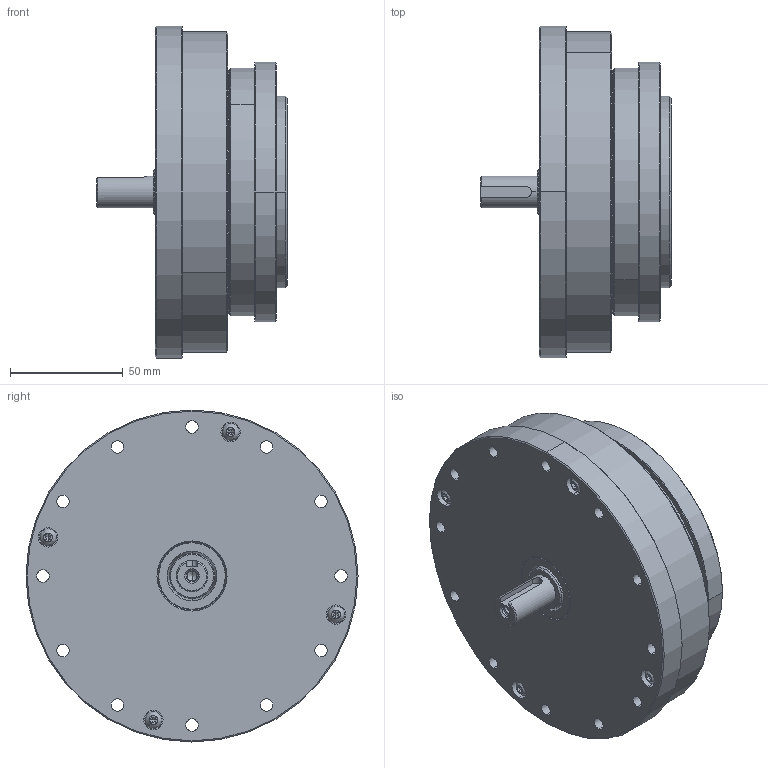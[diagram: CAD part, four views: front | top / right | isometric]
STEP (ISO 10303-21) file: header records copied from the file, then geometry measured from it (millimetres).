
FILE_DESCRIPTION (( 'STEP AP203' ), '1' );
FILE_NAME ('LHSG-32-XXX-C-IV.step', '2025-01-07T07:26:33', ( '' ), ( '' ), 'SwSTEP 2.0', 'SolidWorks 2023', '' );
FILE_SCHEMA (( 'CONFIG_CONTROL_DESIGN' ));
Length unit declared in the file: metre
Products named in the file (1): LHSG-32-XXX-C-IV
Bounding box: 84.5 x 147 x 147 mm (x, y, z)
Volume: 515349.9 mm3; surface area: 281811.4 mm2
Topology: 59 solids, 59 shells, 1651 faces, 4211 edges, 2566 vertices
Faces by surface type: cylinder 584, plane 475, bspline 340, cone 252
Entity records: 58946 total; most frequent: CARTESIAN_POINT 20493, ORIENTED_EDGE 8066, DIRECTION 7952, EDGE_CURVE 4033, AXIS2_PLACEMENT_3D 3279, VERTEX_POINT 2566, EDGE_LOOP 2023, CIRCLE 1967
